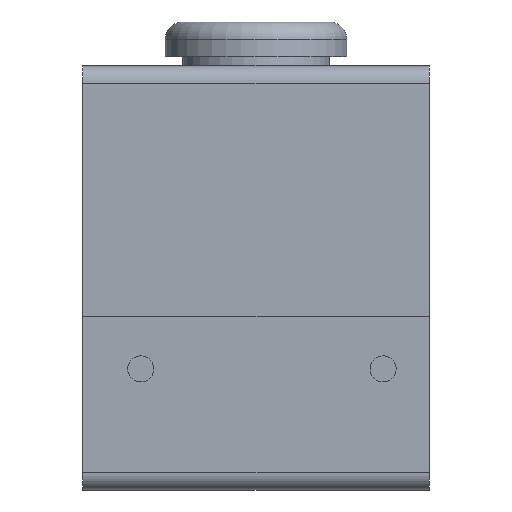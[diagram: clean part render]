
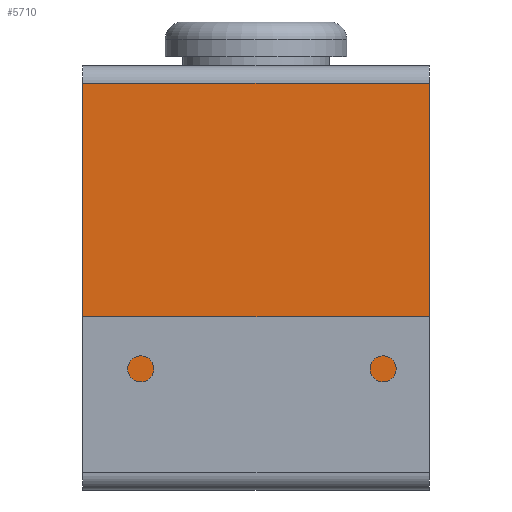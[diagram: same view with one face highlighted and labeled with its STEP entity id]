
A CAD part, left-side view. The second image highlights one B-rep face of the part: STEP entity #5710.
In plain terms, the highlighted planar face has unit normal (-1, 0, 0).
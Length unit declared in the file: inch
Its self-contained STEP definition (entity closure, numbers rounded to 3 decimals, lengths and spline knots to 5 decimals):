
#383=LINE('',#7316,#904);
#384=LINE('',#7318,#905);
#385=LINE('',#7320,#906);
#386=LINE('',#7321,#907);
#904=VECTOR('',#6297,2.7853);
#905=VECTOR('',#6298,2.5);
#906=VECTOR('',#6299,2.7853);
#907=VECTOR('',#6300,2.5);
#1419=PLANE('',#6031);
#1648=FACE_OUTER_BOUND('',#1963,.T.);
#1963=EDGE_LOOP('',(#3755,#3756,#3757,#3758));
#2394=VERTEX_POINT('',#7314);
#2395=VERTEX_POINT('',#7315);
#2396=VERTEX_POINT('',#7317);
#2397=VERTEX_POINT('',#7319);
#2944=EDGE_CURVE('',#2394,#2395,#383,.T.);
#2945=EDGE_CURVE('',#2396,#2395,#384,.T.);
#2946=EDGE_CURVE('',#2396,#2397,#385,.T.);
#2947=EDGE_CURVE('',#2397,#2394,#386,.T.);
#3755=ORIENTED_EDGE('',*,*,#2944,.T.);
#3756=ORIENTED_EDGE('',*,*,#2945,.F.);
#3757=ORIENTED_EDGE('',*,*,#2946,.T.);
#3758=ORIENTED_EDGE('',*,*,#2947,.T.);
#5710=ADVANCED_FACE('',(#1648),#1419,.T.);
#6031=AXIS2_PLACEMENT_3D('',#7313,#6295,#6296);
#6295=DIRECTION('center_axis',(-1.,0.,0.));
#6296=DIRECTION('ref_axis',(0.,0.,-1.));
#6297=DIRECTION('',(0.,0.,1.));
#6298=DIRECTION('',(0.,-1.,0.));
#6299=DIRECTION('',(0.,0.,-1.));
#6300=DIRECTION('',(0.,-1.,0.));
#7313=CARTESIAN_POINT('Origin',(-1.3397,0.,0.1522));
#7314=CARTESIAN_POINT('',(-1.3397,-1.25,0.1522));
#7315=CARTESIAN_POINT('',(-1.3397,-1.25,2.9375));
#7316=CARTESIAN_POINT('',(-1.3397,-1.25,2.9375));
#7317=CARTESIAN_POINT('',(-1.3397,1.25,2.9375));
#7318=CARTESIAN_POINT('',(-1.3397,0.,2.9375));
#7319=CARTESIAN_POINT('',(-1.3397,1.25,0.1522));
#7320=CARTESIAN_POINT('',(-1.3397,1.25,2.9375));
#7321=CARTESIAN_POINT('',(-1.3397,0.,0.1522));
